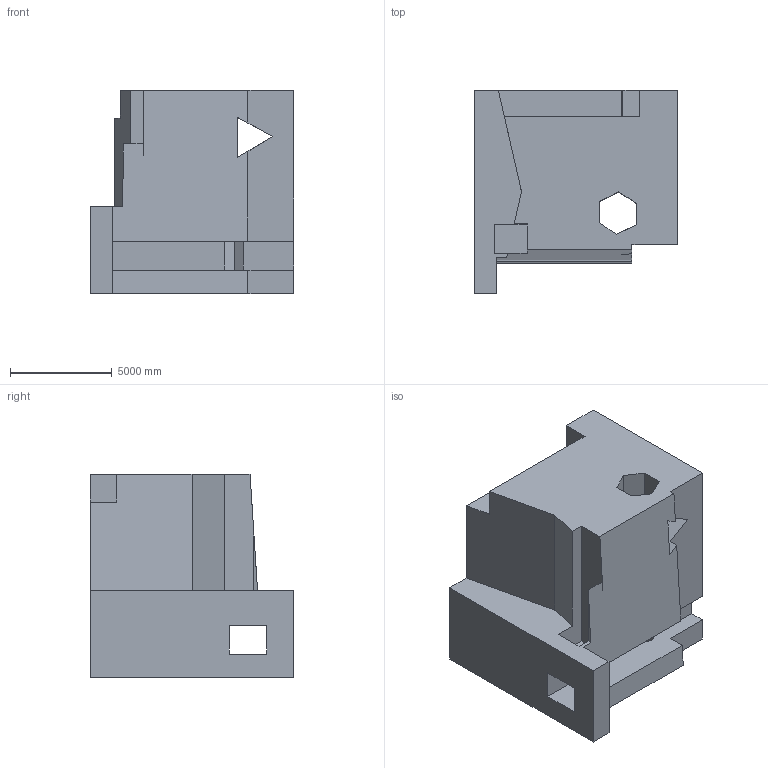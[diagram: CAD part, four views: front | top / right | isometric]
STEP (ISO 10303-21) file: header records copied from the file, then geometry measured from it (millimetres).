
FILE_DESCRIPTION (( 'STEP AP203' ), '1' );
FILE_NAME ('1874.STEP', '2022-08-19T13:52:41', ( 'user' ), ( '' ), 'SwSTEP 2.0', 'SolidWorks 2021', '' );
FILE_SCHEMA (( 'CONFIG_CONTROL_DESIGN' ));
Length unit declared in the file: centimetre
Products named in the file (1): 1874
Bounding box: 10000 x 10000 x 10000 mm (x, y, z)
Volume: 643008190214 mm3; surface area: 660992740.6 mm2
Topology: 1 solids, 1 shells, 49 faces, 156 edges, 104 vertices
Faces by surface type: plane 45, cylinder 4
Entity records: 1795 total; most frequent: ORIENTED_EDGE 312, CARTESIAN_POINT 310, DIRECTION 264, EDGE_CURVE 156, LINE 148, VECTOR 148, VERTEX_POINT 104, AXIS2_PLACEMENT_3D 58
